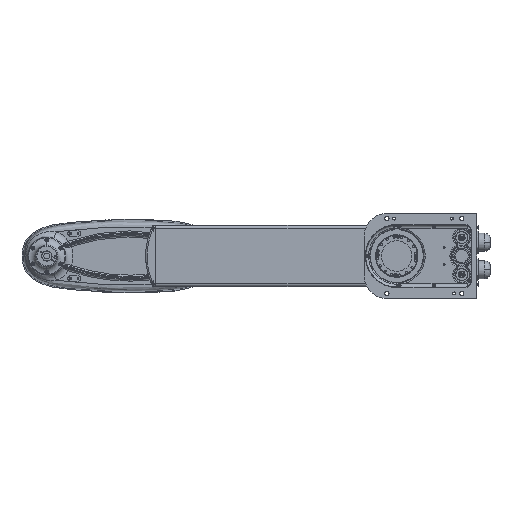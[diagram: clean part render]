
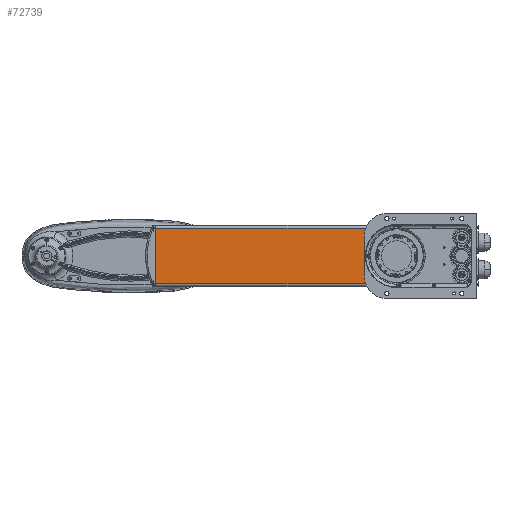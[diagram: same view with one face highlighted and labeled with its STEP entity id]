
A CAD part, front view. The second image highlights one B-rep face of the part: STEP entity #72739.
In plain terms, the highlighted planar face has unit normal (0, -1, 0).
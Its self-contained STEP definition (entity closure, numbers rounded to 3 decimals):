
#4490 = LINE ( 'NONE', #74185, #35402 ) ;
#4724 = DIRECTION ( 'NONE',  ( 0., 0., -1. ) ) ;
#10853 = VERTEX_POINT ( 'NONE', #78975 ) ;
#11552 = AXIS2_PLACEMENT_3D ( 'NONE', #140100, #85373, #112015 ) ;
#15978 = ORIENTED_EDGE ( 'NONE', *, *, #73589, .F. ) ;
#16801 = CARTESIAN_POINT ( 'NONE',  ( -55.584, -30., -555. ) ) ;
#17319 = VECTOR ( 'NONE', #108527, 1000. ) ;
#19383 = CARTESIAN_POINT ( 'NONE',  ( -55., -30., -72.5 ) ) ;
#21514 = VECTOR ( 'NONE', #4724, 1000. ) ;
#25830 = VECTOR ( 'NONE', #65423, 1000. ) ;
#26542 = VERTEX_POINT ( 'NONE', #95905 ) ;
#30545 = EDGE_LOOP ( 'NONE', ( #140396, #116894 ) ) ;
#31682 = FACE_OUTER_BOUND ( 'NONE', #109762, .T. ) ;
#32915 = ORIENTED_EDGE ( 'NONE', *, *, #129943, .T. ) ;
#35402 = VECTOR ( 'NONE', #152178, 1000. ) ;
#35779 = FACE_BOUND ( 'NONE', #30545, .T. ) ;
#35895 = LINE ( 'NONE', #16801, #21514 ) ;
#38544 = VERTEX_POINT ( 'NONE', #55424 ) ;
#42362 = LINE ( 'NONE', #52709, #25830 ) ;
#49611 = DIRECTION ( 'NONE',  ( 0., -1., 0. ) ) ;
#50054 = CIRCLE ( 'NONE', #58289, 55. ) ;
#52709 = CARTESIAN_POINT ( 'NONE',  ( 0., -30., -5. ) ) ;
#53677 = CARTESIAN_POINT ( 'NONE',  ( 55., -30., -72.5 ) ) ;
#55424 = CARTESIAN_POINT ( 'NONE',  ( 55.584, -30., -5. ) ) ;
#56905 = CIRCLE ( 'NONE', #11552, 55. ) ;
#58289 = AXIS2_PLACEMENT_3D ( 'NONE', #67674, #96097, #134179 ) ;
#59553 = EDGE_CURVE ( 'NONE', #127643, #95964, #96079, .T. ) ;
#63140 = AXIS2_PLACEMENT_3D ( 'NONE', #155378, #49611, #115061 ) ;
#65423 = DIRECTION ( 'NONE',  ( 1., 0., 0. ) ) ;
#67674 = CARTESIAN_POINT ( 'NONE',  ( 0., -30., -72.5 ) ) ;
#68835 = CARTESIAN_POINT ( 'NONE',  ( 0., -30., -555. ) ) ;
#72739 = ADVANCED_FACE ( 'NONE', ( #35779, #31682 ), #154789, .T. ) ;
#73589 = EDGE_CURVE ( 'NONE', #26542, #38544, #42362, .T. ) ;
#74185 = CARTESIAN_POINT ( 'NONE',  ( 55.584, -30., -5. ) ) ;
#78975 = CARTESIAN_POINT ( 'NONE',  ( -55.584, -30., -555. ) ) ;
#80619 = EDGE_CURVE ( 'NONE', #135291, #137533, #50054, .T. ) ;
#84813 = ORIENTED_EDGE ( 'NONE', *, *, #59553, .T. ) ;
#85373 = DIRECTION ( 'NONE',  ( 0., -1., 0. ) ) ;
#86286 = LINE ( 'NONE', #68835, #156328 ) ;
#92794 = CARTESIAN_POINT ( 'NONE',  ( -11.364, -30., -555. ) ) ;
#93679 = EDGE_CURVE ( 'NONE', #95964, #38544, #4490, .T. ) ;
#95208 = CARTESIAN_POINT ( 'NONE',  ( 0., -30., -555. ) ) ;
#95905 = CARTESIAN_POINT ( 'NONE',  ( -55.584, -30., -5. ) ) ;
#95964 = VERTEX_POINT ( 'NONE', #104188 ) ;
#96079 = LINE ( 'NONE', #95208, #17319 ) ;
#96097 = DIRECTION ( 'NONE',  ( 0., -1., 0. ) ) ;
#96619 = DIRECTION ( 'NONE',  ( 1., 0., 0. ) ) ;
#104188 = CARTESIAN_POINT ( 'NONE',  ( 55.584, -30., -555. ) ) ;
#108527 = DIRECTION ( 'NONE',  ( 1., 0., 0. ) ) ;
#109762 = EDGE_LOOP ( 'NONE', ( #15978, #118632, #32915, #84813, #163674 ) ) ;
#112015 = DIRECTION ( 'NONE',  ( 1., 0., 0. ) ) ;
#115061 = DIRECTION ( 'NONE',  ( 1., 0., 0. ) ) ;
#116894 = ORIENTED_EDGE ( 'NONE', *, *, #159599, .F. ) ;
#118632 = ORIENTED_EDGE ( 'NONE', *, *, #147182, .T. ) ;
#127643 = VERTEX_POINT ( 'NONE', #92794 ) ;
#129943 = EDGE_CURVE ( 'NONE', #10853, #127643, #86286, .T. ) ;
#134179 = DIRECTION ( 'NONE',  ( 1., 0., 0. ) ) ;
#135291 = VERTEX_POINT ( 'NONE', #53677 ) ;
#137533 = VERTEX_POINT ( 'NONE', #19383 ) ;
#140100 = CARTESIAN_POINT ( 'NONE',  ( 0., -30., -72.5 ) ) ;
#140396 = ORIENTED_EDGE ( 'NONE', *, *, #80619, .F. ) ;
#147182 = EDGE_CURVE ( 'NONE', #26542, #10853, #35895, .T. ) ;
#152178 = DIRECTION ( 'NONE',  ( 0., 0., 1. ) ) ;
#154789 = PLANE ( 'NONE',  #63140 ) ;
#155378 = CARTESIAN_POINT ( 'NONE',  ( 0., -30., -555. ) ) ;
#156328 = VECTOR ( 'NONE', #96619, 1000. ) ;
#159599 = EDGE_CURVE ( 'NONE', #137533, #135291, #56905, .T. ) ;
#163674 = ORIENTED_EDGE ( 'NONE', *, *, #93679, .T. ) ;
